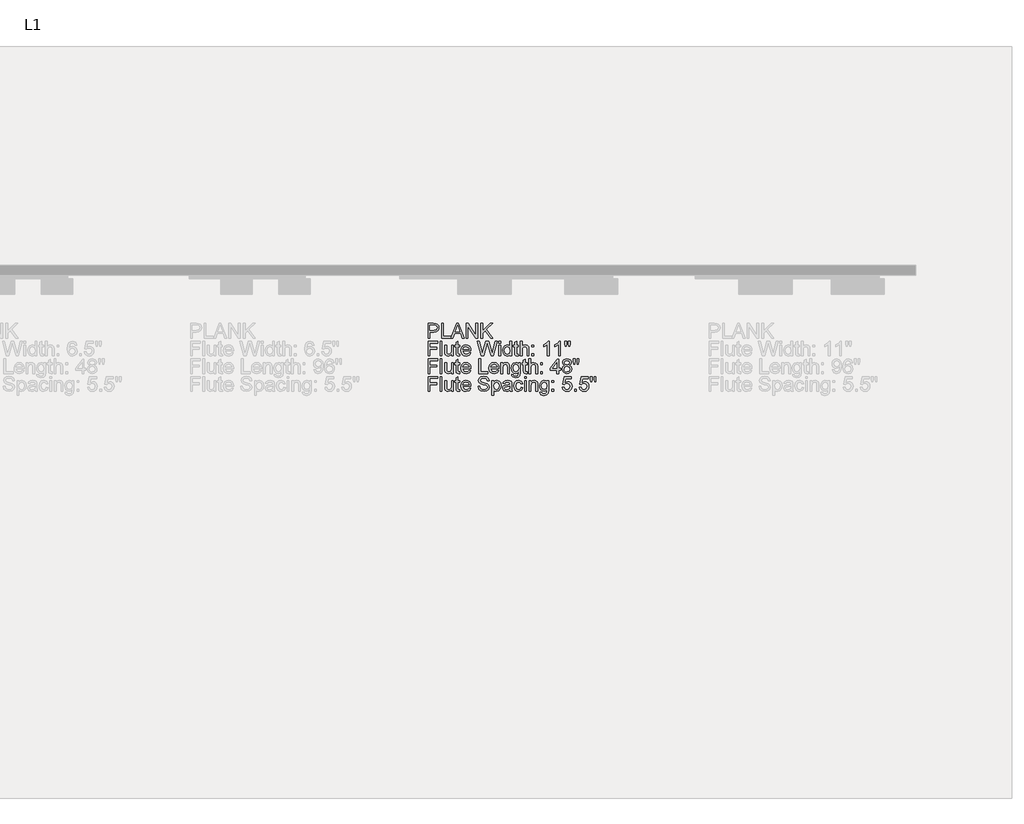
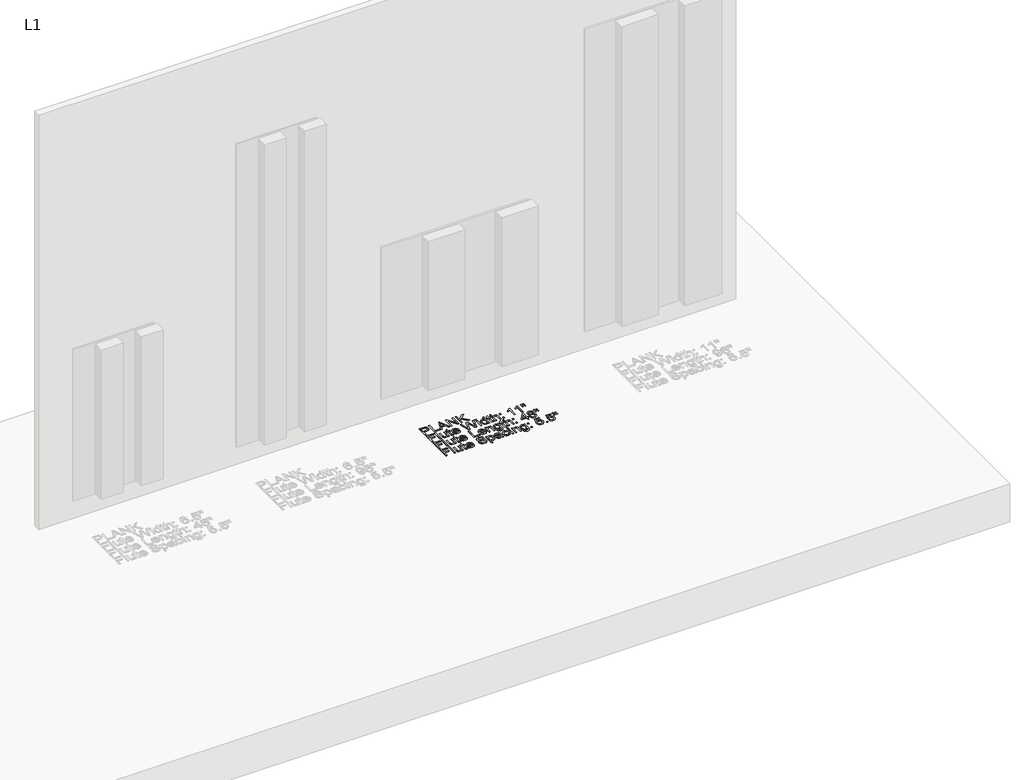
# One storey, part 15 of 17: 1 proxy.
"""IFC4 building model written with IfcOpenShell, lengths in millimetres."""

from ifc_helpers import new_model, si_unit, origin, origin_with_axes, place, context, project, spatial, polyline, outline, extrude, element, save

model = new_model("IFC4")

# Units and contexts
model_context = context("Model", 3, world=origin())
ifc_project = project(units=[si_unit("LENGTHUNIT", "METRE", prefix="MILLI")], contexts=[model_context])

# Site, building, storey
site = spatial("IfcSite", under=ifc_project)
building = spatial("IfcBuilding", under=site)
storey = spatial("IfcBuildingStorey", under=building, Name="L1", Elevation=0.0)

# Proxy
placement = place(None, origin())
element("IfcBuildingElementProxy", 1, Name="3\" Arial", ObjectType="3\" Arial", at=placement, inside=storey, context=model_context, shape_type="SweptSolid", body=[
    extrude(outline(polyline([(16143.7224056, -355.6), (16143.7224056, -279.0522917), (16172.0914049, -279.0522917), (16183.528709, -279.7811395), (16192.8261907, -283.3599691), (16198.8532014, -290.7605776), (16201.1331868, -301.198052), (16199.5937295, -310.2198797), (16194.9753573, -317.7372908), (16186.338978, -322.8111928), (16172.7454991, -324.5024935), (16153.2908691, -324.5024935), (16153.2908691, -355.6), (16143.7224056, -355.6)]), holes=[polyline([(16153.2908691, -314.9340299), (16173.3061513, -314.9340299), (16187.3972089, -311.4206097), (16191.5647233, -301.5344433), (16189.107198, -293.6105594), (16182.650354, -289.2748494), (16173.0818904, -288.6207552), (16153.2908691, -288.6207552), (16153.2908691, -314.9340299)])]), origin_with_axes(), (0.0, 0.0, 1.0), 3.175),
    extrude(outline(polyline([(16214.2898242, -355.6), (16214.2898242, -279.0522917), (16223.8582878, -279.0522917), (16223.8582878, -346.0315365), (16262.1321419, -346.0315365), (16262.1321419, -355.6), (16214.2898242, -355.6)])), origin_with_axes(), (0.0, 0.0, 1.0), 3.175),
    extrude(outline(polyline([(16264.0009825, -355.6), (16294.5565252, -279.0522917), (16302.70467, -279.0522917), (16333.2415243, -355.6), (16323.131097, -355.6), (16314.3849233, -331.6788411), (16282.8388951, -331.6788411), (16274.0927214, -355.6), (16264.0009825, -355.6)]), holes=[polyline([(16286.3523153, -322.1103776), (16310.8901915, -322.1103776), (16303.9754815, -303.2911534), (16298.6119092, -288.6207552), (16293.8463658, -301.6465737), (16286.3523153, -322.1103776)])]), origin_with_axes(), (0.0, 0.0, 1.0), 3.175),
    extrude(outline(polyline([(16343.464082, -355.6), (16343.464082, -279.0522917), (16353.7053282, -279.0522917), (16393.6985156, -339.696167), (16393.6985156, -279.0522917), (16403.2669792, -279.0522917), (16403.2669792, -355.6), (16393.025733, -355.6), (16353.0325456, -294.9374362), (16353.0325456, -355.6), (16343.464082, -355.6)])), origin_with_axes(), (0.0, 0.0, 1.0), 3.175),
    extrude(outline(polyline([(16420.0117904, -355.6), (16420.0117904, -279.0522917), (16429.5802539, -279.0522917), (16429.5802539, -316.5225444), (16468.8259052, -279.0522917), (16482.2068034, -279.0522917), (16449.2404563, -310.5235663), (16483.4028613, -355.6), (16471.7039196, -355.6), (16442.4565652, -316.9897545), (16429.5802539, -329.2867253), (16429.5802539, -355.6), (16420.0117904, -355.6)])), origin_with_axes(), (0.0, 0.0, 1.0), 3.175),
    extrude(outline(polyline([(16143.7224056, -448.5448112), (16143.7224056, -371.9971029), (16195.1528971, -371.9971029), (16195.1528971, -381.5655664), (16153.2908691, -381.5655664), (16153.2908691, -404.2906673), (16189.1726074, -404.2906673), (16189.1726074, -413.8591309), (16153.2908691, -413.8591309), (16153.2908691, -448.5448112), (16143.7224056, -448.5448112)])), origin_with_axes(), (0.0, 0.0, 1.0), 3.175),
    extrude(outline(polyline([(16207.1134766, -448.5448112), (16207.1134766, -371.9971029), (16216.6819401, -371.9971029), (16216.6819401, -448.5448112), (16207.1134766, -448.5448112)])), origin_with_axes(), (0.0, 0.0, 1.0), 3.175),
    extrude(outline(polyline([(16266.9163737, -448.5448112), (16266.9163737, -438.8829056), (16259.4223232, -447.0263783), (16249.6482872, -449.7408691), (16240.64982, -447.8346518), (16234.4452694, -443.05042), (16231.5952876, -436.0048912), (16231.0346354, -427.1092103), (16231.0346354, -392.3300879), (16240.603099, -392.3300879), (16240.603099, -422.6053046), (16241.1824395, -432.3606522), (16244.9668416, -438.0886484), (16252.0964683, -440.1724056), (16260.0857615, -438.0419274), (16265.3652361, -432.2391775), (16266.9163737, -421.5774423), (16266.9163737, -392.3300879), (16276.4848372, -392.3300879), (16276.4848372, -448.5448112), (16266.9163737, -448.5448112)])), origin_with_axes(), (0.0, 0.0, 1.0), 3.175),
    extrude(outline(polyline([(16309.9744596, -440.5648621), (16311.1705176, -448.8251373), (16304.0128583, -449.7408691), (16295.9955324, -448.1523547), (16291.9962137, -443.9848403), (16290.8375326, -433.1268768), (16290.8375326, -401.8985514), (16283.6611849, -401.8985514), (16283.6611849, -392.3300879), (16290.8375326, -392.3300879), (16290.8375326, -378.6688636), (16300.4059961, -373.0436536), (16300.4059961, -392.3300879), (16309.9744596, -392.3300879), (16309.9744596, -401.8985514), (16300.4059961, -401.8985514), (16300.4059961, -432.8465507), (16300.910583, -437.7802897), (16302.5458185, -439.5276556), (16305.8069452, -440.1724056), (16309.9744596, -440.5648621)])), origin_with_axes(), (0.0, 0.0, 1.0), 3.175),
    extrude(outline(polyline([(16358.9007049, -431.8), (16368.2822843, -432.9960579), (16359.508078, -445.3490939), (16343.1650675, -449.7408691), (16331.938008, -447.846332), (16323.2992927, -442.1627208), (16317.7908852, -433.0591313), (16315.9547494, -420.9046597), (16317.8095736, -408.3413792), (16323.3740463, -398.9457834), (16331.8959591, -393.0869683), (16342.6231038, -391.1340299), (16353.0161932, -393.0822962), (16361.3208533, -398.927095), (16366.7661875, -408.3040024), (16368.5812988, -420.8485945), (16368.5252336, -423.4275944), (16325.5232129, -423.4275944), (16331.0269483, -435.855384), (16343.3519516, -440.1724056), (16352.7335311, -438.1727462), (16358.9007049, -431.8)]), holes=[polyline([(16325.5232129, -413.8591309), (16359.0128353, -413.8591309), (16355.1817122, -405.1877108), (16342.585727, -400.7024935), (16330.8026874, -404.2813231), (16325.5232129, -413.8591309)])]), origin_with_axes(), (0.0, 0.0, 1.0), 3.175),
    extrude(outline(polyline([(16422.94587, -448.5448112), (16402.0709212, -371.9971029), (16411.9383993, -371.9971029), (16424.0484859, -422.3062901), (16427.786167, -437.8363549), (16431.7854857, -424.100377), (16446.9604709, -371.9971029), (16461.1823474, -371.9971029), (16472.2085065, -409.7663701), (16480.4127165, -437.8363549), (16484.0382671, -422.7548118), (16496.2417958, -371.9971029), (16506.1279622, -371.9971029), (16485.2717019, -448.5448112), (16475.0304557, -448.5448112), (16456.6597533, -389.4894503), (16454.0994417, -381.2478635), (16451.2214273, -391.1714068), (16434.4953045, -448.5448112), (16422.94587, -448.5448112)])), origin_with_axes(), (0.0, 0.0, 1.0), 3.175),
    extrude(outline(polyline([(16514.5003678, -381.5655664), (16514.5003678, -371.9971029), (16524.0688314, -371.9971029), (16524.0688314, -381.5655664), (16514.5003678, -381.5655664)])), origin_with_axes(), (0.0, 0.0, 1.0), 3.175),
    extrude(outline(polyline([(16514.5003678, -448.5448112), (16514.5003678, -392.3300879), (16524.0688314, -392.3300879), (16524.0688314, -448.5448112), (16514.5003678, -448.5448112)])), origin_with_axes(), (0.0, 0.0, 1.0), 3.175),
    extrude(outline(polyline([(16573.107207, -448.5448112), (16573.107207, -439.5183114), (16566.7765097, -447.1852297), (16558.0256639, -449.7408691), (16546.1772149, -446.0405649), (16537.8048093, -435.7152209), (16534.8333529, -420.4935148), (16537.5712043, -405.2624644), (16545.7754142, -394.778269), (16557.9882871, -391.1340299), (16566.8092144, -393.7410625), (16573.107207, -400.5156094), (16573.107207, -371.9971029), (16582.6756706, -371.9971029), (16582.6756706, -448.5448112), (16573.107207, -448.5448112)]), holes=[polyline([(16544.4018164, -420.4561379), (16548.718838, -435.2666992), (16558.904019, -440.1724056), (16568.9677252, -435.4909601), (16573.107207, -421.1849858), (16568.8929716, -405.6549209), (16558.5115625, -400.7024935), (16548.438512, -405.4586927), (16544.4018164, -420.4561379)])]), origin_with_axes(), (0.0, 0.0, 1.0), 3.175),
    extrude(outline(polyline([(16617.3613509, -440.5648621), (16618.5574089, -448.8251373), (16611.3997496, -449.7408691), (16603.3824237, -448.1523547), (16599.383105, -443.9848403), (16598.2244238, -433.1268768), (16598.2244238, -401.8985514), (16591.0480762, -401.8985514), (16591.0480762, -392.3300879), (16598.2244238, -392.3300879), (16598.2244238, -378.6688636), (16607.7928874, -373.0436536), (16607.7928874, -392.3300879), (16617.3613509, -392.3300879), (16617.3613509, -401.8985514), (16607.7928874, -401.8985514), (16607.7928874, -432.8465507), (16608.2974743, -437.7802897), (16609.9327098, -439.5276556), (16613.1938365, -440.1724056), (16617.3613509, -440.5648621)])), origin_with_axes(), (0.0, 0.0, 1.0), 3.175),
    extrude(outline(polyline([(16626.9298145, -448.5448112), (16626.9298145, -371.9971029), (16636.498278, -371.9971029), (16636.498278, -400.1418413), (16643.9596238, -393.3859828), (16653.1496472, -391.1340299), (16663.8954802, -393.5915553), (16670.4177337, -400.3847906), (16672.3800163, -412.9620874), (16672.3800163, -448.5448112), (16662.8115527, -448.5448112), (16662.8115527, -413.9525729), (16659.7653427, -403.860834), (16651.1312994, -400.7024935), (16643.2915133, -402.8329717), (16638.0587598, -408.607689), (16636.498278, -418.6807394), (16636.498278, -448.5448112), (16626.9298145, -448.5448112)])), origin_with_axes(), (0.0, 0.0, 1.0), 3.175),
    extrude(outline(polyline([(16687.9287695, -401.8985514), (16687.9287695, -392.3300879), (16697.4972331, -392.3300879), (16697.4972331, -401.8985514), (16687.9287695, -401.8985514)])), origin_with_axes(), (0.0, 0.0, 1.0), 3.175),
    extrude(outline(polyline([(16687.9287695, -448.5448112), (16687.9287695, -438.9763477), (16697.4972331, -438.9763477), (16697.4972331, -448.5448112), (16687.9287695, -448.5448112)])), origin_with_axes(), (0.0, 0.0, 1.0), 3.175),
    extrude(outline(polyline([(16778.8291732, -448.5448112), (16769.2607096, -448.5448112), (16769.2607096, -388.8914213), (16760.196833, -395.3482654), (16750.1237826, -400.1792181), (16750.1237826, -391.1340299), (16764.1494308, -382.1822838), (16772.6619994, -371.9971029), (16778.8291732, -371.9971029), (16778.8291732, -448.5448112)])), origin_with_axes(), (0.0, 0.0, 1.0), 3.175),
    extrude(outline(polyline([(16837.4360124, -448.5448112), (16827.8675488, -448.5448112), (16827.8675488, -388.8914213), (16818.8036722, -395.3482654), (16808.7306218, -400.1792181), (16808.7306218, -391.1340299), (16822.75627, -382.1822838), (16831.2688386, -371.9971029), (16837.4360124, -371.9971029), (16837.4360124, -448.5448112)])), origin_with_axes(), (0.0, 0.0, 1.0), 3.175),
    extrude(outline(polyline([(16862.497164, -399.5064355), (16860.1611133, -384.7239069), (16860.1611133, -371.9971029), (16869.7295768, -371.9971029), (16869.7295768, -384.7239069), (16867.6364754, -399.5064355), (16862.497164, -399.5064355)])), origin_with_axes(), (0.0, 0.0, 1.0), 3.175),
    extrude(outline(polyline([(16881.5780258, -399.5064355), (16879.2980404, -384.7239069), (16879.2980404, -371.9971029), (16888.8665039, -371.9971029), (16888.8665039, -384.7239069), (16886.6238953, -399.5064355), (16881.5780258, -399.5064355)])), origin_with_axes(), (0.0, 0.0, 1.0), 3.175),
    extrude(outline(polyline([(16143.7224056, -541.4896224), (16143.7224056, -464.9419141), (16195.1528971, -464.9419141), (16195.1528971, -474.5103776), (16153.2908691, -474.5103776), (16153.2908691, -497.2354785), (16189.1726074, -497.2354785), (16189.1726074, -506.8039421), (16153.2908691, -506.8039421), (16153.2908691, -541.4896224), (16143.7224056, -541.4896224)])), origin_with_axes(), (0.0, 0.0, 1.0), 3.175),
    extrude(outline(polyline([(16207.1134766, -541.4896224), (16207.1134766, -464.9419141), (16216.6819401, -464.9419141), (16216.6819401, -541.4896224), (16207.1134766, -541.4896224)])), origin_with_axes(), (0.0, 0.0, 1.0), 3.175),
    extrude(outline(polyline([(16266.9163737, -541.4896224), (16266.9163737, -531.8277168), (16259.4223232, -539.9711895), (16249.6482872, -542.6856803), (16240.64982, -540.779463), (16234.4452694, -535.9952312), (16231.5952876, -528.9497024), (16231.0346354, -520.0540215), (16231.0346354, -485.2748991), (16240.603099, -485.2748991), (16240.603099, -515.5501158), (16241.1824395, -525.3054634), (16244.9668416, -531.0334596), (16252.0964683, -533.1172168), (16260.0857615, -530.9867386), (16265.3652361, -525.1839887), (16266.9163737, -514.5222535), (16266.9163737, -485.2748991), (16276.4848372, -485.2748991), (16276.4848372, -541.4896224), (16266.9163737, -541.4896224)])), origin_with_axes(), (0.0, 0.0, 1.0), 3.175),
    extrude(outline(polyline([(16309.9744596, -533.5096733), (16311.1705176, -541.7699485), (16304.0128583, -542.6856803), (16295.9955324, -541.0971659), (16291.9962137, -536.9296515), (16290.8375326, -526.071688), (16290.8375326, -494.8433626), (16283.6611849, -494.8433626), (16283.6611849, -485.2748991), (16290.8375326, -485.2748991), (16290.8375326, -471.6136748), (16300.4059961, -465.9884648), (16300.4059961, -485.2748991), (16309.9744596, -485.2748991), (16309.9744596, -494.8433626), (16300.4059961, -494.8433626), (16300.4059961, -525.7913619), (16300.910583, -530.7251009), (16302.5458185, -532.4724668), (16305.8069452, -533.1172168), (16309.9744596, -533.5096733)])), origin_with_axes(), (0.0, 0.0, 1.0), 3.175),
    extrude(outline(polyline([(16358.9007049, -524.7448112), (16368.2822843, -525.9408691), (16359.508078, -538.2939051), (16343.1650675, -542.6856803), (16331.938008, -540.7911432), (16323.2992927, -535.107532), (16317.7908852, -526.0039425), (16315.9547494, -513.8494709), (16317.8095736, -501.2861904), (16323.3740463, -491.8905946), (16331.8959591, -486.0317795), (16342.6231038, -484.0788411), (16353.0161932, -486.0271074), (16361.3208533, -491.8719062), (16366.7661875, -501.2488136), (16368.5812988, -513.7934057), (16368.5252336, -516.3724056), (16325.5232129, -516.3724056), (16331.0269483, -528.8001952), (16343.3519516, -533.1172168), (16352.7335311, -531.1175574), (16358.9007049, -524.7448112)]), holes=[polyline([(16325.5232129, -506.8039421), (16359.0128353, -506.8039421), (16355.1817122, -498.132522), (16342.585727, -493.6473047), (16330.8026874, -497.2261343), (16325.5232129, -506.8039421)])]), origin_with_axes(), (0.0, 0.0, 1.0), 3.175),
    extrude(outline(polyline([(16409.2472689, -541.4896224), (16409.2472689, -464.9419141), (16418.8157324, -464.9419141), (16418.8157324, -531.9211589), (16457.0895866, -531.9211589), (16457.0895866, -541.4896224), (16409.2472689, -541.4896224)])), origin_with_axes(), (0.0, 0.0, 1.0), 3.175),
    extrude(outline(polyline([(16506.0158318, -524.7448112), (16515.3974113, -525.9408691), (16506.623205, -538.2939051), (16490.2801945, -542.6856803), (16479.053135, -540.7911432), (16470.4144196, -535.107532), (16464.9060121, -526.0039425), (16463.0698763, -513.8494709), (16464.9247005, -501.2861904), (16470.4891732, -491.8905946), (16479.0110861, -486.0317795), (16489.7382307, -484.0788411), (16500.1313202, -486.0271074), (16508.4359803, -491.8719062), (16513.8813144, -501.2488136), (16515.6964258, -513.7934057), (16515.6403606, -516.3724056), (16472.6383398, -516.3724056), (16478.1420752, -528.8001952), (16490.4670786, -533.1172168), (16499.848658, -531.1175574), (16506.0158318, -524.7448112)]), holes=[polyline([(16472.6383398, -506.8039421), (16506.1279622, -506.8039421), (16502.2968391, -498.132522), (16489.7008539, -493.6473047), (16477.9178144, -497.2261343), (16472.6383398, -506.8039421)])]), origin_with_axes(), (0.0, 0.0, 1.0), 3.175),
    extrude(outline(polyline([(16525.2648893, -541.4896224), (16525.2648893, -485.2748991), (16534.8333529, -485.2748991), (16534.8333529, -493.1240293), (16542.1498636, -486.3401382), (16552.1388162, -484.0788411), (16561.1746602, -485.9009607), (16567.341834, -490.6851924), (16570.2105042, -497.7213771), (16570.7150911, -506.9721377), (16570.7150911, -541.4896224), (16561.1466276, -541.4896224), (16561.1466276, -508.2616377), (16560.0440117, -499.79579), (16556.1474792, -495.319917), (16549.5785047, -493.6473047), (16539.1970955, -497.4036742), (16534.8333529, -511.6629274), (16534.8333529, -541.4896224), (16525.2648893, -541.4896224)])), origin_with_axes(), (0.0, 0.0, 1.0), 3.175),
    extrude(outline(polyline([(16581.4796126, -546.2738542), (16591.0480762, -547.4699121), (16594.1503515, -552.5157816), (16603.4384889, -554.6462598), (16613.2312133, -552.2354555), (16617.9033147, -545.4702527), (16618.5574089, -534.3132747), (16611.8202387, -539.6955355), (16603.6066846, -541.4896224), (16593.7415426, -539.4011931), (16586.385319, -533.1359052), (16581.8089958, -523.950554), (16580.2835547, -513.1019347), (16583.0214061, -498.272685), (16590.9452899, -487.7791454), (16603.1394744, -484.0788411), (16611.6754036, -486.1719425), (16618.5574089, -492.4512467), (16618.5574089, -485.2748991), (16628.1258724, -485.2748991), (16628.1258724, -533.8086878), (16625.5094957, -552.3943069), (16617.2211879, -561.0376944), (16603.2516049, -564.2147233), (16587.3384277, -559.7388502), (16582.8415302, -554.1346647), (16581.4796126, -546.2738542)]), holes=[polyline([(16589.8520182, -512.4478405), (16593.9354348, -527.2584017), (16604.1860251, -531.9211589), (16614.4179271, -527.2864343), (16618.5574089, -512.7281666), (16614.2964524, -498.4595691), (16604.0365179, -493.6473047), (16593.9915, -498.3848154), (16589.8520182, -512.4478405)])]), origin_with_axes(), (0.0, 0.0, 1.0), 3.175),
    extrude(outline(polyline([(16662.8115527, -533.5096733), (16664.0076107, -541.7699485), (16656.8499514, -542.6856803), (16648.8326255, -541.0971659), (16644.8333068, -536.9296515), (16643.6746257, -526.071688), (16643.6746257, -494.8433626), (16636.498278, -494.8433626), (16636.498278, -485.2748991), (16643.6746257, -485.2748991), (16643.6746257, -471.6136748), (16653.2430892, -465.9884648), (16653.2430892, -485.2748991), (16662.8115527, -485.2748991), (16662.8115527, -494.8433626), (16653.2430892, -494.8433626), (16653.2430892, -525.7913619), (16653.7476761, -530.7251009), (16655.3829116, -532.4724668), (16658.6440383, -533.1172168), (16662.8115527, -533.5096733)])), origin_with_axes(), (0.0, 0.0, 1.0), 3.175),
    extrude(outline(polyline([(16672.3800163, -541.4896224), (16672.3800163, -464.9419141), (16681.9484798, -464.9419141), (16681.9484798, -493.0866525), (16689.4098257, -486.330794), (16698.599849, -484.0788411), (16709.3456821, -486.5363664), (16715.8679355, -493.3296018), (16717.8302181, -505.9068986), (16717.8302181, -541.4896224), (16708.2617546, -541.4896224), (16708.2617546, -506.8973841), (16705.2155445, -496.8056452), (16696.5815012, -493.6473047), (16688.7417152, -495.7777829), (16683.5089617, -501.5525002), (16681.9484798, -511.6255506), (16681.9484798, -541.4896224), (16672.3800163, -541.4896224)])), origin_with_axes(), (0.0, 0.0, 1.0), 3.175),
    extrude(outline(polyline([(16733.3789714, -494.8433626), (16733.3789714, -485.2748991), (16742.9474349, -485.2748991), (16742.9474349, -494.8433626), (16733.3789714, -494.8433626)])), origin_with_axes(), (0.0, 0.0, 1.0), 3.175),
    extrude(outline(polyline([(16733.3789714, -541.4896224), (16733.3789714, -531.9211589), (16742.9474349, -531.9211589), (16742.9474349, -541.4896224), (16733.3789714, -541.4896224)])), origin_with_axes(), (0.0, 0.0, 1.0), 3.175),
    extrude(outline(polyline([(16819.4951432, -541.4896224), (16819.4951432, -523.5487533), (16784.8094629, -523.5487533), (16784.8094629, -513.9802897), (16821.8872591, -466.137972), (16829.0636068, -466.137972), (16829.0636068, -513.9802897), (16838.6320703, -513.9802897), (16838.6320703, -523.5487533), (16829.0636068, -523.5487533), (16829.0636068, -541.4896224), (16819.4951432, -541.4896224)]), holes=[polyline([(16819.4951432, -513.9802897), (16819.4951432, -484.4152324), (16796.5831583, -513.9802897), (16819.4951432, -513.9802897)])]), origin_with_axes(), (0.0, 0.0, 1.0), 3.175),
    extrude(outline(polyline([(16860.9460263, -499.3285799), (16852.2278852, -493.385667), (16849.3965918, -484.1349064), (16850.9383852, -476.6548721), (16855.5637656, -470.473682), (16862.7541295, -466.3248561), (16871.9908739, -464.9419141), (16881.2836834, -466.3575608), (16888.5674894, -470.6045009), (16893.2769676, -476.8838051), (16894.8467936, -484.396544), (16892.052877, -493.4136996), (16883.5776852, -499.3285799), (16893.7535219, -506.8319747), (16897.2389095, -519.2130432), (16895.510232, -528.3610176), (16890.3241995, -535.9204776), (16882.3162178, -540.9943797), (16872.1216927, -542.6856803), (16861.9271676, -540.9873715), (16853.9191859, -535.892445), (16848.7331534, -528.2605675), (16847.0044759, -518.9514055), (16850.6300266, -506.2806667), (16860.9460263, -499.3285799)]), holes=[polyline([(16856.5729395, -518.6150142), (16858.1707981, -525.8193945), (16863.8240407, -531.2109995), (16872.1964463, -533.1172168), (16883.5963736, -529.1085538), (16887.670446, -518.9140287), (16883.4655548, -508.5232753), (16871.8787434, -504.4118262), (16860.6189792, -508.4672101), (16856.5729395, -518.6150142)]), polyline([(16858.9650553, -484.4152324), (16862.3570009, -491.9279714), (16872.2338231, -494.8433626), (16881.9144171, -491.9466598), (16885.2783301, -484.8450658), (16881.8022867, -477.4911783), (16872.1216927, -474.5103776), (16862.4130661, -477.4257688), (16858.9650553, -484.4152324)])]), origin_with_axes(), (0.0, 0.0, 1.0), 3.175),
    extrude(outline(polyline([(16927.0282276, -492.4512467), (16924.7482422, -477.6687181), (16924.7482422, -464.9419141), (16934.3167057, -464.9419141), (16934.3167057, -477.6687181), (16932.0740971, -492.4512467), (16927.0282276, -492.4512467)])), origin_with_axes(), (0.0, 0.0, 1.0), 3.175),
    extrude(outline(polyline([(16907.9473658, -492.4512467), (16905.6113151, -477.6687181), (16905.6113151, -464.9419141), (16915.1797787, -464.9419141), (16915.1797787, -477.6687181), (16913.0866773, -492.4512467), (16907.9473658, -492.4512467)])), origin_with_axes(), (0.0, 0.0, 1.0), 3.175),
    extrude(outline(polyline([(16143.7224056, -634.4344336), (16143.7224056, -557.8867253), (16195.1528971, -557.8867253), (16195.1528971, -567.4551888), (16153.2908691, -567.4551888), (16153.2908691, -590.1802897), (16189.1726074, -590.1802897), (16189.1726074, -599.7487533), (16153.2908691, -599.7487533), (16153.2908691, -634.4344336), (16143.7224056, -634.4344336)])), origin_with_axes(), (0.0, 0.0, 1.0), 3.175),
    extrude(outline(polyline([(16207.1134766, -634.4344336), (16207.1134766, -557.8867253), (16216.6819401, -557.8867253), (16216.6819401, -634.4344336), (16207.1134766, -634.4344336)])), origin_with_axes(), (0.0, 0.0, 1.0), 3.175),
    extrude(outline(polyline([(16266.9163737, -634.4344336), (16266.9163737, -624.772528), (16259.4223232, -632.9160007), (16249.6482872, -635.6304915), (16240.64982, -633.7242742), (16234.4452694, -628.9400424), (16231.5952876, -621.8945136), (16231.0346354, -612.9988327), (16231.0346354, -578.2197103), (16240.603099, -578.2197103), (16240.603099, -608.494927), (16241.1824395, -618.2502746), (16244.9668416, -623.9782708), (16252.0964683, -626.062028), (16260.0857615, -623.9315498), (16265.3652361, -618.1287999), (16266.9163737, -607.4670647), (16266.9163737, -578.2197103), (16276.4848372, -578.2197103), (16276.4848372, -634.4344336), (16266.9163737, -634.4344336)])), origin_with_axes(), (0.0, 0.0, 1.0), 3.175),
    extrude(outline(polyline([(16309.9744596, -626.4544845), (16311.1705176, -634.7147597), (16304.0128583, -635.6304915), (16295.9955324, -634.0419771), (16291.9962137, -629.8744627), (16290.8375326, -619.0164992), (16290.8375326, -587.7881738), (16283.6611849, -587.7881738), (16283.6611849, -578.2197103), (16290.8375326, -578.2197103), (16290.8375326, -564.558486), (16300.4059961, -558.933276), (16300.4059961, -578.2197103), (16309.9744596, -578.2197103), (16309.9744596, -587.7881738), (16300.4059961, -587.7881738), (16300.4059961, -618.7361731), (16300.910583, -623.6699121), (16302.5458185, -625.417278), (16305.8069452, -626.062028), (16309.9744596, -626.4544845)])), origin_with_axes(), (0.0, 0.0, 1.0), 3.175),
    extrude(outline(polyline([(16358.9007049, -617.6896224), (16368.2822843, -618.8856803), (16359.508078, -631.2387163), (16343.1650675, -635.6304915), (16331.938008, -633.7359544), (16323.2992927, -628.0523432), (16317.7908852, -618.9487537), (16315.9547494, -606.7942821), (16317.8095736, -594.2310016), (16323.3740463, -584.8354058), (16331.8959591, -578.9765907), (16342.6231038, -577.0236523), (16353.0161932, -578.9719186), (16361.3208533, -584.8167174), (16366.7661875, -594.1936248), (16368.5812988, -606.7382169), (16368.5252336, -609.3172168), (16325.5232129, -609.3172168), (16331.0269483, -621.7450064), (16343.3519516, -626.062028), (16352.7335311, -624.0623686), (16358.9007049, -617.6896224)]), holes=[polyline([(16325.5232129, -599.7487533), (16359.0128353, -599.7487533), (16355.1817122, -591.0773332), (16342.585727, -586.5921159), (16330.8026874, -590.1709455), (16325.5232129, -599.7487533)])]), origin_with_axes(), (0.0, 0.0, 1.0), 3.175),
    extrude(outline(polyline([(16405.6590951, -608.1211589), (16415.2275586, -608.1211589), (16418.3111455, -617.6989666), (16425.8425728, -623.7540099), (16437.3172537, -626.062028), (16447.3155506, -624.3146621), (16453.7723946, -619.5117419), (16455.8935286, -613.0922747), (16454.3050142, -607.1213292), (16447.8014491, -602.7762749), (16433.8692429, -599.1226917), (16418.8717976, -594.4038693), (16410.7329971, -587.2835869), (16408.0512109, -577.7711886), (16411.3684029, -566.9412577), (16421.0583411, -559.2976999), (16435.2428407, -556.6906673), (16450.3804491, -559.4191745), (16460.472188, -567.4365004), (16464.2659342, -579.4157682), (16454.6974707, -579.4157682), (16449.2778332, -569.585667), (16435.6166088, -566.2591309), (16421.9180077, -569.5482902), (16417.6196745, -577.4908625), (16420.6658846, -584.1252464), (16436.2893914, -589.4701303), (16453.2210867, -594.2730505), (16462.4811915, -602.0287387), (16465.4619922, -612.8493254), (16462.0326698, -624.2959737), (16452.1651918, -632.6496909), (16437.6910218, -635.6304915), (16420.6004751, -632.4160858), (16409.7892326, -622.7354918), (16405.6590951, -608.1211589)])), origin_with_axes(), (0.0, 0.0, 1.0), 3.175),
    extrude(outline(polyline([(16478.6186296, -655.9634766), (16478.6186296, -578.2197103), (16488.1870931, -578.2197103), (16488.1870931, -587.6012898), (16494.8027886, -579.6680617), (16503.7358464, -577.0236523), (16515.8646214, -580.7239566), (16523.7885053, -591.1520868), (16526.4609473, -605.8972386), (16523.4427698, -621.3992709), (16514.6779077, -631.9582199), (16502.5771652, -635.6304915), (16494.2514806, -633.1729662), (16488.1870931, -626.9590715), (16488.1870931, -655.9634766), (16478.6186296, -655.9634766)]), holes=[polyline([(16488.1870931, -606.7755937), (16492.3265749, -621.3525498), (16502.3715928, -626.062028), (16512.6221831, -621.1843542), (16516.8924837, -606.0654343), (16512.7249693, -591.4511013), (16502.7640493, -586.5921159), (16492.606901, -591.75946), (16488.1870931, -606.7755937)])]), origin_with_axes(), (0.0, 0.0, 1.0), 3.175),
    extrude(outline(polyline([(16573.107207, -627.2580859), (16563.8284138, -633.7429626), (16553.5778234, -635.6304915), (16539.6829941, -631.089209), (16534.8333529, -619.4837093), (16536.6648166, -611.9149051), (16541.477081, -606.420514), (16548.1768743, -603.2808619), (16556.4558379, -601.8418547), (16573.0511418, -598.5526953), (16573.107207, -596.4222171), (16570.4721419, -589.3579999), (16559.8945044, -586.5921159), (16550.2139105, -588.4329238), (16545.5978744, -594.9645215), (16536.0294108, -593.7684635), (16540.1688926, -584.4242609), (16548.5039214, -578.9485581), (16561.1279392, -577.0236523), (16572.7240947, -578.7242972), (16579.2743808, -582.9945979), (16582.2084604, -589.4888187), (16582.6756706, -597.8612243), (16582.6756706, -609.7657385), (16583.1615691, -626.3890751), (16585.0677865, -634.4344336), (16575.4993229, -634.4344336), (16573.107207, -627.2580859)]), holes=[polyline([(16573.107207, -608.1211589), (16557.6705842, -611.0552385), (16549.4383417, -612.6063761), (16545.7100048, -615.1293109), (16544.4018164, -618.8109267), (16547.2517982, -623.987615), (16555.6148596, -626.062028), (16565.2954536, -623.7726983), (16571.537381, -618.2315862), (16573.0511418, -610.8309776), (16573.107207, -608.1211589)])]), origin_with_axes(), (0.0, 0.0, 1.0), 3.175),
    extrude(outline(polyline([(16631.7140462, -614.1014486), (16641.2825098, -615.2975065), (16633.6015752, -630.2388866), (16618.42659, -635.6304915), (16608.2484173, -633.7499707), (16600.2894926, -628.1084084), (16595.1525172, -618.9534258), (16593.4401921, -606.5326444), (16596.3649275, -590.6381556), (16605.2792969, -580.4249421), (16618.2957712, -577.0236523), (16632.8446948, -581.6957537), (16640.0864518, -594.9645215), (16630.5179883, -596.1605794), (16626.079492, -588.993576), (16618.3705248, -586.5921159), (16607.2789562, -591.3202824), (16603.0086556, -606.2710067), (16607.1855142, -621.361894), (16618.1088871, -626.062028), (16627.1260427, -623.1279484), (16631.7140462, -614.1014486)])), origin_with_axes(), (0.0, 0.0, 1.0), 3.175),
    extrude(outline(polyline([(16649.6549154, -567.4551888), (16649.6549154, -557.8867253), (16659.2233789, -557.8867253), (16659.2233789, -567.4551888), (16649.6549154, -567.4551888)])), origin_with_axes(), (0.0, 0.0, 1.0), 3.175),
    extrude(outline(polyline([(16649.6549154, -634.4344336), (16649.6549154, -578.2197103), (16659.2233789, -578.2197103), (16659.2233789, -634.4344336), (16649.6549154, -634.4344336)])), origin_with_axes(), (0.0, 0.0, 1.0), 3.175),
    extrude(outline(polyline([(16673.5760742, -634.4344336), (16673.5760742, -578.2197103), (16683.1445378, -578.2197103), (16683.1445378, -586.0688405), (16690.4610485, -579.2849494), (16700.4500011, -577.0236523), (16709.4858451, -578.8457719), (16715.6530189, -583.6300036), (16718.5216891, -590.6661883), (16719.026276, -599.9169489), (16719.026276, -634.4344336), (16709.4578125, -634.4344336), (16709.4578125, -601.2064489), (16708.3551966, -592.7406012), (16704.4586641, -588.2647282), (16697.8896896, -586.5921159), (16687.5082804, -590.3484854), (16683.1445378, -604.6077386), (16683.1445378, -634.4344336), (16673.5760742, -634.4344336)])), origin_with_axes(), (0.0, 0.0, 1.0), 3.175),
    extrude(outline(polyline([(16729.7907975, -639.2186654), (16739.3592611, -640.4147233), (16742.4615364, -645.4605928), (16751.7496738, -647.591071), (16761.5423982, -645.1802667), (16766.2144996, -638.4150639), (16766.8685938, -627.2580859), (16760.1314236, -632.6403467), (16751.9178695, -634.4344336), (16742.0527275, -632.3460043), (16734.6965039, -626.0807164), (16730.1201807, -616.8953652), (16728.5947396, -606.0467459), (16731.332591, -591.2174962), (16739.2564748, -580.7239566), (16751.4506593, -577.0236523), (16759.9865885, -579.1167537), (16766.8685938, -585.3960579), (16766.8685938, -578.2197103), (16776.4370573, -578.2197103), (16776.4370573, -626.753499), (16773.8206805, -645.3391181), (16765.5323728, -653.9825056), (16751.5627898, -657.1595345), (16735.6496126, -652.6836614), (16731.1527151, -647.0794759), (16729.7907975, -639.2186654)]), holes=[polyline([(16738.1632031, -605.3926517), (16742.2466197, -620.2032129), (16752.49721, -624.8659701), (16762.729112, -620.2312455), (16766.8685938, -605.6729778), (16762.6076373, -591.4043803), (16752.3477028, -586.5921159), (16742.3026849, -591.3296266), (16738.1632031, -605.3926517)])]), origin_with_axes(), (0.0, 0.0, 1.0), 3.175),
    extrude(outline(polyline([(16793.1818685, -587.7881738), (16793.1818685, -578.2197103), (16802.750332, -578.2197103), (16802.750332, -587.7881738), (16793.1818685, -587.7881738)])), origin_with_axes(), (0.0, 0.0, 1.0), 3.175),
    extrude(outline(polyline([(16793.1818685, -634.4344336), (16793.1818685, -624.8659701), (16802.750332, -624.8659701), (16802.750332, -634.4344336), (16793.1818685, -634.4344336)])), origin_with_axes(), (0.0, 0.0, 1.0), 3.175),
    extrude(outline(polyline([(16848.2005339, -614.1014486), (16857.7689974, -612.9053906), (16862.590606, -622.7635245), (16872.5889028, -626.062028), (16884.5868591, -621.4740245), (16888.8665039, -609.2985284), (16884.857841, -597.9359779), (16872.7384101, -593.7684635), (16864.3379719, -595.4317316), (16858.9650553, -599.7487533), (16849.3965918, -598.5526953), (16857.7689974, -559.0827832), (16894.8467936, -559.0827832), (16894.8467936, -568.6512467), (16865.5059972, -568.6512467), (16861.394548, -589.731768), (16875.3921637, -584.2), (16884.3345656, -585.9146612), (16891.7632067, -591.0586448), (16896.7670273, -598.8984308), (16898.4349675, -608.7004994), (16896.9352229, -618.268963), (16892.4359893, -626.4544845), (16883.8206345, -633.3364898), (16872.551526, -635.6304915), (16863.1535942, -634.1564436), (16855.6665518, -629.7342996), (16850.5342485, -622.8779909), (16848.2005339, -614.1014486)])), origin_with_axes(), (0.0, 0.0, 1.0), 3.175),
    extrude(outline(polyline([(16911.5916048, -634.4344336), (16911.5916048, -624.8659701), (16921.1600684, -624.8659701), (16921.1600684, -634.4344336), (16911.5916048, -634.4344336)])), origin_with_axes(), (0.0, 0.0, 1.0), 3.175),
    extrude(outline(polyline([(16936.7088216, -614.1014486), (16946.2772852, -612.9053906), (16951.0988937, -622.7635245), (16961.0971906, -626.062028), (16973.0951468, -621.4740245), (16977.3747917, -609.2985284), (16973.3661287, -597.9359779), (16961.2466979, -593.7684635), (16952.8462596, -595.4317316), (16947.4733431, -599.7487533), (16937.9048796, -598.5526953), (16946.2772852, -559.0827832), (16983.3550814, -559.0827832), (16983.3550814, -568.6512467), (16954.014285, -568.6512467), (16949.9028358, -589.731768), (16963.9004514, -584.2), (16972.8428534, -585.9146612), (16980.2714945, -591.0586448), (16985.275315, -598.8984308), (16986.9432552, -608.7004994), (16985.4435107, -618.268963), (16980.9442771, -626.4544845), (16972.3289222, -633.3364898), (16961.0598138, -635.6304915), (16951.661882, -634.1564436), (16944.1748396, -629.7342996), (16939.0425362, -622.8779909), (16936.7088216, -614.1014486)])), origin_with_axes(), (0.0, 0.0, 1.0), 3.175),
    extrude(outline(polyline([(16997.6517115, -585.3960579), (16995.3156608, -570.6135293), (16995.3156608, -557.8867253), (17004.8841244, -557.8867253), (17004.8841244, -570.6135293), (17002.791023, -585.3960579), (16997.6517115, -585.3960579)])), origin_with_axes(), (0.0, 0.0, 1.0), 3.175),
    extrude(outline(polyline([(17016.7325734, -585.3960579), (17014.4525879, -570.6135293), (17014.4525879, -557.8867253), (17024.0210514, -557.8867253), (17024.0210514, -570.6135293), (17021.7784428, -585.3960579), (17016.7325734, -585.3960579)])), origin_with_axes(), (0.0, 0.0, 1.0), 3.175),
])

save(model, "model.ifc")
